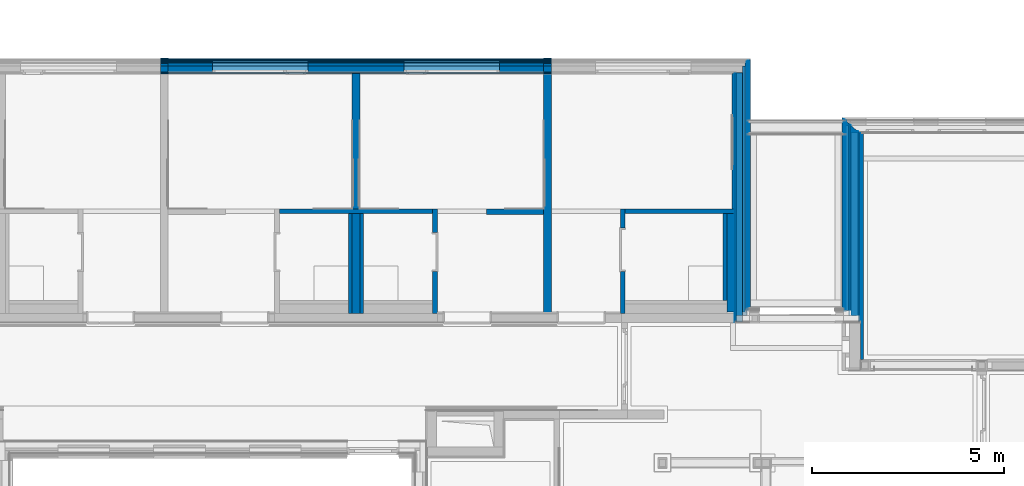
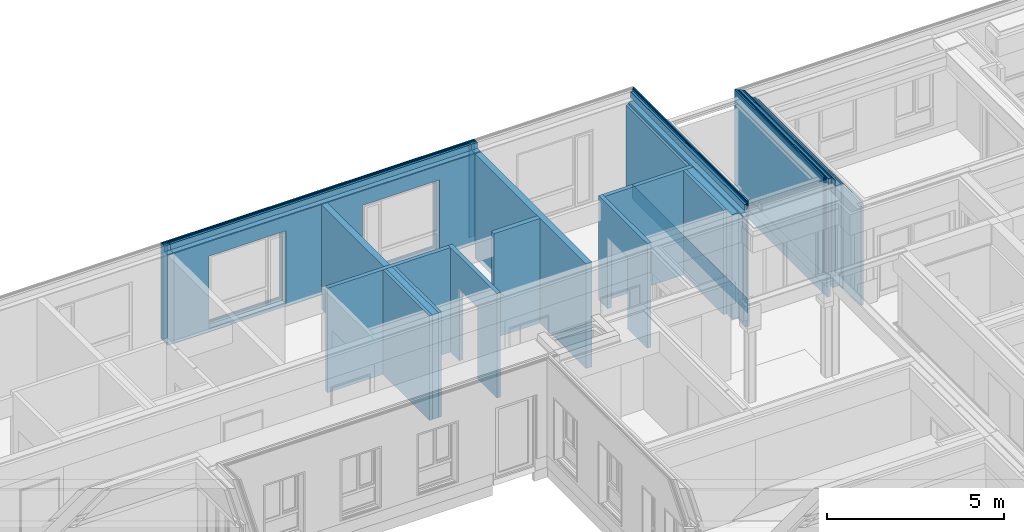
# One storey, part 39 of 207: 59 walls, 16 openings.
"""IFC4 building model written with IfcOpenShell, lengths in metres."""

from ifc_helpers import new_model, entity, si_unit, converted_unit, derived_unit, frame, frame_2d, origin, origin_with_axes, place, context, subcontext, project, spatial, polyline, rectangle, outline, extrude, clip, bounded_halfspace, material, element, save


model = new_model("IFC4")

# Units and contexts
model_context = context("Model", 3, precision=1e-05, world=origin())
body_context = subcontext(model_context, "Body", "Model", "MODEL_VIEW")
ifc_project = project(units=[si_unit("LENGTHUNIT", "METRE"), si_unit("AREAUNIT", "SQUARE_METRE"), si_unit("VOLUMEUNIT", "CUBIC_METRE"), si_unit("MASSUNIT", "GRAM", prefix="KILO"), converted_unit("PLANEANGLEUNIT", "DEGREE", entity("IfcPlaneAngleMeasure", 0.0174532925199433), si_unit("PLANEANGLEUNIT", "RADIAN"), dimensions=[0, 0, 0, 0, 0, 0, 0]), derived_unit("THERMALTRANSMITTANCEUNIT", [(si_unit("POWERUNIT", "WATT"), 1), (si_unit("THERMODYNAMICTEMPERATUREUNIT", "KELVIN"), -1), (si_unit("LENGTHUNIT", "METRE"), -2)]), derived_unit("VOLUMETRICFLOWRATEUNIT", [(si_unit("LENGTHUNIT", "METRE"), 3), (converted_unit("TIMEUNIT", "hour", entity("IfcTimeMeasure", 3600.0), si_unit("TIMEUNIT", "SECOND"), dimensions=[0, 0, 1, 0, 0, 0, 0]), -1), (si_unit("LENGTHUNIT", "METRE"), -1)])], contexts=[model_context])

# Site, building, storey
site_placement = place(None, origin())
site = spatial("IfcSite", under=ifc_project, at=site_placement, Name="Psychiatrie Neubau Wunstorf", CompositionType="ELEMENT")
building_placement = place(site_placement, origin())
building = spatial("IfcBuilding", under=site, at=building_placement, Name="Neubau H2 Stationsgebäude", CompositionType="ELEMENT")
storey_placement = place(building_placement, frame((0.0, 0.0, -0.2)))
storey = spatial("IfcBuildingStorey", under=building, at=storey_placement, Name="H2 Ebene 0", CompositionType="ELEMENT", Elevation=-0.2)

# Walls
ifc_material_1 = material(Name="WA-LB")
wall_1_placement = place(storey_placement, frame((19.9, 30.614, 0.5)))
element("IfcWall", 1, at=wall_1_placement, inside=storey, material=ifc_material_1, context=body_context, shape_type="SweptSolid", body=[
    extrude(rectangle(XDim=0.2, YDim=0.036, at=frame_2d((0.1, 0.018), x_axis=(1.0, 0.0))), origin_with_axes(), (0.0, 0.0, 1.0), 3.1),
])
ifc_material_2 = material(Name="WA-HD")
wall_2_placement = place(storey_placement, frame((19.9, 30.65, 0.5)))
element("IfcWall", 2, at=wall_2_placement, inside=storey, material=ifc_material_2, context=body_context, shape_type="SweptSolid", body=[
    extrude(rectangle(XDim=0.2, YDim=0.16, at=frame_2d((0.1, 0.08), x_axis=(1.0, 0.0))), origin_with_axes(), (0.0, 0.0, 1.0), 3.1),
])
ifc_material_3 = material(Name="WA-DL")
wall_3_placement = place(storey_placement, frame((19.9, 30.81, 0.5)))
element("IfcWall", 3, at=wall_3_placement, inside=storey, material=ifc_material_3, context=body_context, shape_type="SweptSolid", body=[
    extrude(rectangle(XDim=0.2, YDim=0.08, at=frame_2d((0.1, 0.04), x_axis=(1.0, 0.0))), origin_with_axes(), (0.0, 0.0, 1.0), 3.3),
])
ifc_material_4 = material(Name="WA-TP")
wall_4_placement = place(storey_placement, frame((19.9, 30.89, 0.5)))
element("IfcWall", 4, at=wall_4_placement, inside=storey, material=ifc_material_4, context=body_context, shape_type="SweptSolid", body=[
    extrude(rectangle(XDim=0.2, YDim=0.036, at=frame_2d((0.1, 0.018), x_axis=(1.0, 0.0))), origin_with_axes(), (0.0, 0.0, 1.0), 3.3),
])
ifc_material_5 = material(Name="WA-KL")
wall_5_placement = place(storey_placement, frame((19.9, 30.926, 0.5)))
element("IfcWall", 5, at=wall_5_placement, inside=storey, material=ifc_material_5, context=body_context, shape_type="SweptSolid", body=[
    extrude(rectangle(XDim=0.2, YDim=0.024, at=frame_2d((0.1, 0.012), x_axis=(1.0, 0.0))), origin_with_axes(), (0.0, 0.0, 1.0), 3.3),
])
ifc_material_6 = material(Name="WA-TL")
wall_6_placement = place(storey_placement, frame((19.9, 30.95, 0.5)))
element("IfcWall", 6, at=wall_6_placement, inside=storey, material=ifc_material_6, context=body_context, shape_type="SweptSolid", body=[
    extrude(rectangle(XDim=0.2, YDim=0.024, at=frame_2d((0.1, 0.012), x_axis=(1.0, 0.0))), origin_with_axes(), (0.0, 0.0, 1.0), 3.3),
])
ifc_material_7 = material(Name="WA-HS")
wall_7_placement = place(storey_placement, frame((19.9, 30.974, 0.5)))
element("IfcWall", 7, at=wall_7_placement, inside=storey, material=ifc_material_7, context=body_context, shape_type="SweptSolid", body=[
    extrude(rectangle(XDim=0.2, YDim=0.042, at=frame_2d((0.1, 0.021), x_axis=(1.0, 0.0))), origin_with_axes(), (0.0, 0.0, 1.0), 3.3),
])

# Wall, openings
ifc_material_8 = material(Name="WA-LB")
wall_8_placement = place(storey_placement, frame((20.1, 30.614, 0.5), z_axis=(0.0, 0.0, 1.0), x_axis=(1.0, -7.42444654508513e-16, 0.0)))
wall_8 = element("IfcWall", 8, at=wall_8_placement, inside=storey, material=ifc_material_8, context=body_context, shape_type="SweptSolid", body=[
    extrude(rectangle(XDim=9.8, YDim=0.036, at=frame_2d((4.9, 0.018), x_axis=(1.0, 0.0))), origin_with_axes(), (0.0, 0.0, 1.0), 3.1),
])
opening_1_placement = place(wall_8_placement, frame((1.15, 0.0, 0.1), z_axis=(0.0, 1.0, 0.0), x_axis=(0.0, 0.0, 1.0)))
element("IfcOpeningElement", 9, at=opening_1_placement, cuts=wall_8, Name="Fensteröffnung", ObjectType="Opening", context=body_context, shape_type="SweptSolid", body=[
    extrude(outline(polyline([(2.5, 2.5), (2.5, 0.0), (0.0, 0.0), (0.0, 2.5), (2.5, 2.5)])), origin_with_axes(), (0.0, 0.0, 1.0), 0.036),
])
opening_2_placement = place(wall_8_placement, frame((6.15, 0.0, 0.1), z_axis=(0.0, 1.0, 0.0), x_axis=(0.0, 0.0, 1.0)))
element("IfcOpeningElement", 10, at=opening_2_placement, cuts=wall_8, Name="Fensteröffnung", ObjectType="Opening", context=body_context, shape_type="SweptSolid", body=[
    extrude(outline(polyline([(2.5, 2.5), (2.5, 0.0), (0.0, 0.0), (0.0, 2.5), (2.5, 2.5)])), origin_with_axes(), (0.0, 0.0, 1.0), 0.036),
])

ifc_material_9 = material(Name="WA-HD")
wall_9_placement = place(storey_placement, frame((20.1, 30.65, 0.5), z_axis=(0.0, 0.0, 1.0), x_axis=(1.0, -7.42444654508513e-16, 0.0)))
wall_9 = element("IfcWall", 11, at=wall_9_placement, inside=storey, material=ifc_material_9, context=body_context, shape_type="SweptSolid", body=[
    extrude(rectangle(XDim=9.8, YDim=0.16, at=frame_2d((4.9, 0.08), x_axis=(1.0, 0.0))), origin_with_axes(), (0.0, 0.0, 1.0), 3.1),
])
opening_3_placement = place(wall_9_placement, frame((1.15, 0.0, 0.1), z_axis=(-1.4210854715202e-15, 1.0, 0.0), x_axis=(0.0, 0.0, 1.0)))
element("IfcOpeningElement", 12, at=opening_3_placement, cuts=wall_9, Name="Fensteröffnung", ObjectType="Opening", context=body_context, shape_type="SweptSolid", body=[
    extrude(outline(polyline([(2.5, 2.5), (2.5, 0.0), (0.0, 0.0), (0.0, 2.5), (2.5, 2.5)])), origin_with_axes(), (0.0, 0.0, 1.0), 0.16),
])
opening_4_placement = place(wall_9_placement, frame((6.15, 0.0, 0.1), z_axis=(0.0, 1.0, 0.0), x_axis=(0.0, 0.0, 1.0)))
element("IfcOpeningElement", 13, at=opening_4_placement, cuts=wall_9, Name="Fensteröffnung", ObjectType="Opening", context=body_context, shape_type="SweptSolid", body=[
    extrude(outline(polyline([(2.5, 2.5), (2.5, 0.0), (0.0, 0.0), (0.0, 2.5), (2.5, 2.5)])), origin_with_axes(), (0.0, 0.0, 1.0), 0.16),
])

ifc_material_10 = material(Name="WA-DL")
wall_10_placement = place(storey_placement, frame((20.1, 30.81, 0.5), z_axis=(0.0, 0.0, 1.0), x_axis=(1.0, -7.42444654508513e-16, 0.0)))
wall_10 = element("IfcWall", 14, at=wall_10_placement, inside=storey, material=ifc_material_10, context=body_context, shape_type="SweptSolid", body=[
    extrude(rectangle(XDim=9.8, YDim=0.08, at=frame_2d((4.9, 0.04), x_axis=(1.0, 0.0))), origin_with_axes(), (0.0, 0.0, 1.0), 3.3),
])
opening_5_placement = place(wall_10_placement, frame((6.15, 0.0, 0.1), z_axis=(0.0, 1.0, 0.0), x_axis=(0.0, 0.0, 1.0)))
element("IfcOpeningElement", 15, at=opening_5_placement, cuts=wall_10, Name="Fensteröffnung", ObjectType="Opening", context=body_context, shape_type="SweptSolid", body=[
    extrude(outline(polyline([(2.5, 2.5), (2.5, 0.0), (0.0, 0.0), (0.0, 2.5), (2.5, 2.5)])), origin_with_axes(), (0.0, 0.0, 1.0), 0.08),
])
opening_6_placement = place(wall_10_placement, frame((1.15, 0.0, 0.1), z_axis=(0.0, 1.0, 0.0), x_axis=(0.0, 0.0, 1.0)))
element("IfcOpeningElement", 16, at=opening_6_placement, cuts=wall_10, Name="Fensteröffnung", ObjectType="Opening", context=body_context, shape_type="SweptSolid", body=[
    extrude(outline(polyline([(2.5, 2.5), (2.5, 0.0), (0.0, 0.0), (0.0, 2.5), (2.5, 2.5)])), origin_with_axes(), (0.0, 0.0, 1.0), 0.08),
])

ifc_material_11 = material(Name="WA-TP")
wall_11_placement = place(storey_placement, frame((20.1, 30.89, 0.5), z_axis=(0.0, 0.0, 1.0), x_axis=(1.0, -7.42444654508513e-16, 0.0)))
wall_11 = element("IfcWall", 17, at=wall_11_placement, inside=storey, material=ifc_material_11, context=body_context, shape_type="SweptSolid", body=[
    extrude(rectangle(XDim=9.8, YDim=0.036, at=frame_2d((4.9, 0.018), x_axis=(1.0, 0.0))), origin_with_axes(), (0.0, 0.0, 1.0), 3.3),
])
opening_7_placement = place(wall_11_placement, frame((1.15, 0.0, 0.1), z_axis=(0.0, 1.0, 0.0), x_axis=(0.0, 0.0, 1.0)))
element("IfcOpeningElement", 18, at=opening_7_placement, cuts=wall_11, Name="Fensteröffnung", ObjectType="Opening", context=body_context, shape_type="SweptSolid", body=[
    extrude(outline(polyline([(2.5, 2.5), (2.5, 0.0), (0.0, 0.0), (0.0, 2.5), (2.5, 2.5)])), origin_with_axes(), (0.0, 0.0, 1.0), 0.036),
])
opening_8_placement = place(wall_11_placement, frame((6.15, 0.0, 0.1), z_axis=(0.0, 1.0, 0.0), x_axis=(0.0, 0.0, 1.0)))
element("IfcOpeningElement", 19, at=opening_8_placement, cuts=wall_11, Name="Fensteröffnung", ObjectType="Opening", context=body_context, shape_type="SweptSolid", body=[
    extrude(outline(polyline([(2.5, 2.5), (2.5, 0.0), (0.0, 0.0), (0.0, 2.5), (2.5, 2.5)])), origin_with_axes(), (0.0, 0.0, 1.0), 0.036),
])

ifc_material_12 = material(Name="WA-KL")
wall_12_placement = place(storey_placement, frame((20.1, 30.926, 0.5), z_axis=(0.0, 0.0, 1.0), x_axis=(1.0, -7.42444654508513e-16, 0.0)))
wall_12 = element("IfcWall", 20, at=wall_12_placement, inside=storey, material=ifc_material_12, context=body_context, shape_type="SweptSolid", body=[
    extrude(rectangle(XDim=9.8, YDim=0.024, at=frame_2d((4.9, 0.012), x_axis=(1.0, 0.0))), origin_with_axes(), (0.0, 0.0, 1.0), 3.3),
])
opening_9_placement = place(wall_12_placement, frame((6.15, 0.0, 0.1), z_axis=(0.0, 1.0, 0.0), x_axis=(0.0, 0.0, 1.0)))
element("IfcOpeningElement", 21, at=opening_9_placement, cuts=wall_12, Name="Fensteröffnung", ObjectType="Opening", context=body_context, shape_type="SweptSolid", body=[
    extrude(outline(polyline([(2.5, 2.5), (2.5, 0.0), (0.0, 0.0), (0.0, 2.5), (2.5, 2.5)])), origin_with_axes(), (0.0, 0.0, 1.0), 0.024),
])
opening_10_placement = place(wall_12_placement, frame((1.15, 0.0, 0.1), z_axis=(0.0, 1.0, 0.0), x_axis=(0.0, 0.0, 1.0)))
element("IfcOpeningElement", 22, at=opening_10_placement, cuts=wall_12, Name="Fensteröffnung", ObjectType="Opening", context=body_context, shape_type="SweptSolid", body=[
    extrude(outline(polyline([(2.5, 2.5), (2.5, 0.0), (0.0, 0.0), (0.0, 2.5), (2.5, 2.5)])), origin_with_axes(), (0.0, 0.0, 1.0), 0.024),
])

ifc_material_13 = material(Name="WA-TL")
wall_13_placement = place(storey_placement, frame((20.1, 30.95, 0.5), z_axis=(0.0, 0.0, 1.0), x_axis=(1.0, -7.42444654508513e-16, 0.0)))
wall_13 = element("IfcWall", 23, at=wall_13_placement, inside=storey, material=ifc_material_13, context=body_context, shape_type="SweptSolid", body=[
    extrude(rectangle(XDim=9.8, YDim=0.024, at=frame_2d((4.9, 0.012), x_axis=(1.0, 0.0))), origin_with_axes(), (0.0, 0.0, 1.0), 3.3),
])
opening_11_placement = place(wall_13_placement, frame((6.15, 0.0, 0.1), z_axis=(0.0, 1.0, 0.0), x_axis=(0.0, 0.0, 1.0)))
element("IfcOpeningElement", 24, at=opening_11_placement, cuts=wall_13, Name="Fensteröffnung", ObjectType="Opening", context=body_context, shape_type="SweptSolid", body=[
    extrude(outline(polyline([(2.5, 2.5), (2.5, 0.0), (0.0, 0.0), (0.0, 2.5), (2.5, 2.5)])), origin_with_axes(), (0.0, 0.0, 1.0), 0.024),
])
opening_12_placement = place(wall_13_placement, frame((1.15, 0.0, 0.1), z_axis=(0.0, 1.0, 0.0), x_axis=(0.0, 0.0, 1.0)))
element("IfcOpeningElement", 25, at=opening_12_placement, cuts=wall_13, Name="Fensteröffnung", ObjectType="Opening", context=body_context, shape_type="SweptSolid", body=[
    extrude(outline(polyline([(2.5, 2.5), (2.5, 0.0), (0.0, 0.0), (0.0, 2.5), (2.5, 2.5)])), origin_with_axes(), (0.0, 0.0, 1.0), 0.024),
])

ifc_material_14 = material(Name="WA-HS")
wall_14_placement = place(storey_placement, frame((20.1, 30.974, 0.5), z_axis=(0.0, 0.0, 1.0), x_axis=(1.0, -7.42444654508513e-16, 0.0)))
wall_14 = element("IfcWall", 26, at=wall_14_placement, inside=storey, material=ifc_material_14, context=body_context, shape_type="SweptSolid", body=[
    extrude(rectangle(XDim=9.8, YDim=0.042, at=frame_2d((4.9, 0.021), x_axis=(1.0, 0.0))), origin_with_axes(), (0.0, 0.0, 1.0), 3.3),
])
opening_13_placement = place(wall_14_placement, frame((1.15, 0.0, 0.1), z_axis=(0.0, 1.0, 0.0), x_axis=(0.0, 0.0, 1.0)))
element("IfcOpeningElement", 27, at=opening_13_placement, cuts=wall_14, Name="Fensteröffnung", ObjectType="Opening", context=body_context, shape_type="SweptSolid", body=[
    extrude(outline(polyline([(2.5, 2.5), (2.5, 0.0), (0.0, 0.0), (0.0, 2.5), (2.5, 2.5)])), origin_with_axes(), (0.0, 0.0, 1.0), 0.042),
])
opening_14_placement = place(wall_14_placement, frame((6.15, 0.0, 0.1), z_axis=(0.0, 1.0, 0.0), x_axis=(0.0, 0.0, 1.0)))
element("IfcOpeningElement", 28, at=opening_14_placement, cuts=wall_14, Name="Fensteröffnung", ObjectType="Opening", context=body_context, shape_type="SweptSolid", body=[
    extrude(outline(polyline([(2.5, 2.5), (2.5, 0.0), (0.0, 0.0), (0.0, 2.5), (2.5, 2.5)])), origin_with_axes(), (0.0, 0.0, 1.0), 0.042),
])

# Walls
ifc_material_15 = material(Name="WA-LB")
wall_15_placement = place(storey_placement, frame((29.9, 30.614, 0.5)))
element("IfcWall", 29, at=wall_15_placement, inside=storey, material=ifc_material_15, context=body_context, shape_type="SweptSolid", body=[
    extrude(rectangle(XDim=0.2, YDim=0.036, at=frame_2d((0.1, 0.018), x_axis=(1.0, 0.0))), origin_with_axes(), (0.0, 0.0, 1.0), 3.1),
])
ifc_material_16 = material(Name="WA-HD")
wall_16_placement = place(storey_placement, frame((29.9, 30.65, 0.5)))
element("IfcWall", 30, at=wall_16_placement, inside=storey, material=ifc_material_16, context=body_context, shape_type="SweptSolid", body=[
    extrude(rectangle(XDim=0.2, YDim=0.16, at=frame_2d((0.1, 0.08), x_axis=(1.0, 0.0))), origin_with_axes(), (0.0, 0.0, 1.0), 3.1),
])
ifc_material_17 = material(Name="WA-DL")
wall_17_placement = place(storey_placement, frame((29.9, 30.81, 0.5)))
element("IfcWall", 31, at=wall_17_placement, inside=storey, material=ifc_material_17, context=body_context, shape_type="SweptSolid", body=[
    extrude(rectangle(XDim=0.2, YDim=0.08, at=frame_2d((0.1, 0.04), x_axis=(1.0, 0.0))), origin_with_axes(), (0.0, 0.0, 1.0), 3.3),
])
ifc_material_18 = material(Name="WA-TP")
wall_18_placement = place(storey_placement, frame((29.9, 30.89, 0.5)))
element("IfcWall", 32, at=wall_18_placement, inside=storey, material=ifc_material_18, context=body_context, shape_type="SweptSolid", body=[
    extrude(rectangle(XDim=0.2, YDim=0.036, at=frame_2d((0.1, 0.018), x_axis=(1.0, 0.0))), origin_with_axes(), (0.0, 0.0, 1.0), 3.3),
])
ifc_material_19 = material(Name="WA-KL")
wall_19_placement = place(storey_placement, frame((29.9, 30.926, 0.5)))
element("IfcWall", 33, at=wall_19_placement, inside=storey, material=ifc_material_19, context=body_context, shape_type="SweptSolid", body=[
    extrude(rectangle(XDim=0.2, YDim=0.024, at=frame_2d((0.1, 0.012), x_axis=(1.0, 0.0))), origin_with_axes(), (0.0, 0.0, 1.0), 3.3),
])
ifc_material_20 = material(Name="WA-TL")
wall_20_placement = place(storey_placement, frame((29.9, 30.95, 0.5)))
element("IfcWall", 34, at=wall_20_placement, inside=storey, material=ifc_material_20, context=body_context, shape_type="SweptSolid", body=[
    extrude(rectangle(XDim=0.2, YDim=0.024, at=frame_2d((0.1, 0.012), x_axis=(1.0, 0.0))), origin_with_axes(), (0.0, 0.0, 1.0), 3.3),
])
ifc_material_21 = material(Name="WA-HS")
wall_21_placement = place(storey_placement, frame((29.9, 30.974, 0.5)))
element("IfcWall", 35, at=wall_21_placement, inside=storey, material=ifc_material_21, context=body_context, shape_type="SweptSolid", body=[
    extrude(rectangle(XDim=0.2, YDim=0.042, at=frame_2d((0.1, 0.021), x_axis=(1.0, 0.0))), origin_with_axes(), (0.0, 0.0, 1.0), 3.3),
])
ifc_material_22 = material(Name="WA-LB")
wall_22_placement = place(storey_placement, frame((34.889, 30.614, 0.5), z_axis=(0.0, 0.0, 1.0), x_axis=(0.0, -1.0, 0.0)))
element("IfcWall", 36, at=wall_22_placement, inside=storey, material=ifc_material_22, context=body_context, shape_type="SweptSolid", body=[
    extrude(rectangle(XDim=6.46399633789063, YDim=0.036, at=frame_2d((3.23199816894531, 0.018), x_axis=(1.0, 0.0))), origin_with_axes(), (0.0, 0.0, 1.0), 3.1),
])
ifc_material_23 = material(Name="WA-HD")
wall_23_placement = place(storey_placement, frame((34.925, 30.65, 0.5), z_axis=(0.0, 0.0, 1.0), x_axis=(0.0, -1.0, 0.0)))
element("IfcWall", 37, at=wall_23_placement, inside=storey, material=ifc_material_23, context=body_context, shape_type="SweptSolid", body=[
    extrude(rectangle(XDim=6.33999633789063, YDim=0.16, at=frame_2d((3.16999816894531, 0.08), x_axis=(1.0, 0.0))), origin_with_axes(), (0.0, 0.0, 1.0), 3.1),
])
ifc_material_24 = material(Name="WA-DL")
wall_24_placement = place(storey_placement, frame((35.085, 30.81, 0.5), z_axis=(0.0, 0.0, 1.0), x_axis=(0.0, -1.0, 0.0)))
element("IfcWall", 38, at=wall_24_placement, inside=storey, material=ifc_material_24, context=body_context, shape_type="SweptSolid", body=[
    extrude(rectangle(XDim=6.41999633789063, YDim=0.08, at=frame_2d((3.20999816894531, 0.04), x_axis=(1.0, 0.0))), origin_with_axes(), (0.0, 0.0, 1.0), 3.3),
])
ifc_material_25 = material(Name="WA-TP")
wall_25_placement = place(storey_placement, frame((35.165, 30.89, 0.5), z_axis=(0.0, 0.0, 1.0), x_axis=(0.0, -1.0, 0.0)))
element("IfcWall", 39, at=wall_25_placement, inside=storey, material=ifc_material_25, context=body_context, shape_type="SweptSolid", body=[
    extrude(rectangle(XDim=6.46399633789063, YDim=0.036, at=frame_2d((3.23199816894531, 0.018), x_axis=(1.0, 0.0))), origin_with_axes(), (0.0, 0.0, 1.0), 3.3),
])
ifc_material_26 = material(Name="WA-KL")
wall_26_placement = place(storey_placement, frame((35.201, 30.926, 0.5), z_axis=(0.0, 0.0, 1.0), x_axis=(0.0, -1.0, 0.0)))
element("IfcWall", 40, at=wall_26_placement, inside=storey, material=ifc_material_26, context=body_context, shape_type="SweptSolid", body=[
    extrude(rectangle(XDim=6.47599633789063, YDim=0.024, at=frame_2d((3.23799816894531, 0.012), x_axis=(1.0, 0.0))), origin_with_axes(), (0.0, 0.0, 1.0), 3.3),
])
ifc_material_27 = material(Name="WA-TL")
wall_27_placement = place(storey_placement, frame((35.225, 30.95, 0.5), z_axis=(0.0, 0.0, 1.0), x_axis=(0.0, -1.0, 0.0)))
element("IfcWall", 41, at=wall_27_placement, inside=storey, material=ifc_material_27, context=body_context, shape_type="SweptSolid", body=[
    extrude(rectangle(XDim=6.47599633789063, YDim=0.024, at=frame_2d((3.23799816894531, 0.012), x_axis=(1.0, 0.0))), origin_with_axes(), (0.0, 0.0, 1.0), 3.3),
])
ifc_material_28 = material(Name="WA-HS")
wall_28_placement = place(storey_placement, frame((35.249, 30.974, 0.5), z_axis=(0.0, 0.0, 1.0), x_axis=(0.0, -1.0, 0.0)))
element("IfcWall", 42, at=wall_28_placement, inside=storey, material=ifc_material_28, context=body_context, shape_type="SweptSolid", body=[
    extrude(rectangle(XDim=6.45799633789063, YDim=0.042, at=frame_2d((3.22899816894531, 0.021), x_axis=(1.0, 0.0))), origin_with_axes(), (0.0, 0.0, 1.0), 3.3),
])
ifc_material_29 = material(Name="WA-LB")
wall_29_placement = place(storey_placement, frame((38.1475, 24.1500036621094, 0.5), z_axis=(0.0, 0.0, 1.0), x_axis=(0.0, 1.0, 0.0)))
element("IfcWall", 43, at=wall_29_placement, inside=storey, material=ifc_material_29, context=body_context, shape_type="SweptSolid", body=[
    extrude(outline(polyline([(0.0, -0.036), (4.91399602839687, -0.036), (4.94532070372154, 0.0), (0.0, 0.0), (0.0, -0.036)])), frame((0.0, 0.036, 0.0), z_axis=(0.0, 0.0, 1.0), x_axis=(1.0, 0.0, 0.0)), (0.0, 0.0, 1.0), 3.1),
])
ifc_material_30 = material(Name="WA-LB")
wall_30_placement = place(storey_placement, frame((38.1115, 24.1500036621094, 0.5), z_axis=(0.0, 0.0, 1.0), x_axis=(0.0, 1.0, 0.0)))
element("IfcWall", 44, at=wall_30_placement, inside=storey, material=ifc_material_30, context=body_context, shape_type="SweptSolid", body=[
    extrude(outline(polyline([(0.0, -0.019), (4.94532070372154, -0.019), (4.96185317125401, 0.0), (0.0, 0.0), (0.0, -0.019)])), frame((0.0, 0.019, 0.0), z_axis=(0.0, 0.0, 1.0), x_axis=(1.0, 0.0, 0.0)), (0.0, 0.0, 1.0), 3.1),
])
ifc_material_31 = material(Name="WA-HD")
wall_31_placement = place(storey_placement, frame((38.0925, 24.1500036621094, 0.5), z_axis=(0.0, 0.0, 1.0), x_axis=(0.0, 1.0, 0.0)))
element("IfcWall", 45, at=wall_31_placement, inside=storey, material=ifc_material_31, context=body_context, shape_type="SweptSolid", body=[
    extrude(outline(polyline([(0.0, -0.18), (4.96185317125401, -0.18), (5.11847654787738, 0.0), (0.0, 0.0), (0.0, -0.18)])), frame((0.0, 0.18, 0.0), z_axis=(0.0, 0.0, 1.0), x_axis=(1.0, 0.0, 0.0)), (0.0, 0.0, 1.0), 3.1),
])
ifc_material_32 = material(Name="WA-LB")
wall_32_placement = place(storey_placement, frame((37.9125, 24.1500036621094, 0.5), z_axis=(0.0, 0.0, 1.0), x_axis=(0.0, 1.0, 0.0)))
element("IfcWall", 46, at=wall_32_placement, inside=storey, material=ifc_material_32, context=body_context, shape_type="SweptSolid", body=[
    extrude(outline(polyline([(0.0, -0.019), (5.11847654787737, -0.019), (5.13500901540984, 0.0), (0.0, 0.0), (0.0, -0.019)])), frame((0.0, 0.019, 0.0), z_axis=(0.0, 0.0, 1.0), x_axis=(1.0, 0.0, 0.0)), (0.0, 0.0, 1.0), 3.3),
])
ifc_material_33 = material(Name="WA-TP")
wall_33_placement = place(storey_placement, frame((37.8935, 24.3100036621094, 0.5), z_axis=(0.0, 0.0, 1.0), x_axis=(0.0, 1.0, 0.0)))
element("IfcWall", 47, at=wall_33_placement, inside=storey, material=ifc_material_33, context=body_context, shape_type="SweptSolid", body=[
    extrude(outline(polyline([(0.0, -0.036), (4.97500901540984, -0.036), (5.00633369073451, 0.0), (0.0, 0.0), (0.0, -0.036)])), frame((0.0, 0.036, 0.0), z_axis=(0.0, 0.0, 1.0), x_axis=(1.0, 0.0, 0.0)), (0.0, 0.0, 1.0), 3.3),
])
ifc_material_34 = material(Name="WA-DL")
wall_34_placement = place(storey_placement, frame((37.8575, 24.3100036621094, 0.5), z_axis=(0.0, 0.0, 1.0), x_axis=(0.0, 1.0, 0.0)))
element("IfcWall", 48, at=wall_34_placement, inside=storey, material=ifc_material_34, context=body_context, shape_type="SweptSolid", body=[
    extrude(outline(polyline([(0.0, -0.08), (5.00633369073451, -0.08), (5.0759440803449, 0.0), (0.0, 0.0), (0.0, -0.08)])), frame((0.0, 0.08, 0.0), z_axis=(0.0, 0.0, 1.0), x_axis=(1.0, 0.0, 0.0)), (0.0, 0.0, 1.0), 3.3),
])
ifc_material_35 = material(Name="WA-KL")
wall_35_placement = place(storey_placement, frame((37.7775, 24.4260036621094, 0.5), z_axis=(0.0, 0.0, 1.0), x_axis=(0.0, 1.0, 0.0)))
element("IfcWall", 49, at=wall_35_placement, inside=storey, material=ifc_material_35, context=body_context, shape_type="SweptSolid", body=[
    extrude(outline(polyline([(0.0, -0.025), (4.9599440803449, -0.025), (4.98169732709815, 0.0), (0.0, 0.0), (0.0, -0.025)])), frame((0.0, 0.025, 0.0), z_axis=(0.0, 0.0, 1.0), x_axis=(1.0, 0.0, 0.0)), (0.0, 0.0, 1.0), 3.3),
])
ifc_material_36 = material(Name="WA-TL")
wall_36_placement = place(storey_placement, frame((37.7525, 24.4260036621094, 0.5), z_axis=(0.0, 0.0, 1.0), x_axis=(0.0, 1.0, 0.0)))
element("IfcWall", 50, at=wall_36_placement, inside=storey, material=ifc_material_36, context=body_context, shape_type="SweptSolid", body=[
    extrude(outline(polyline([(0.0, -0.025), (4.98169732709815, -0.025), (5.0034505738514, 0.0), (0.0, 0.0), (0.0, -0.025)])), frame((0.0, 0.025, 0.0), z_axis=(0.0, 0.0, 1.0), x_axis=(1.0, 0.0, 0.0)), (0.0, 0.0, 1.0), 3.3),
])
ifc_material_37 = material(Name="WA-HS")
wall_37_placement = place(storey_placement, frame((37.7275, 24.4500036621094, 0.5), z_axis=(0.0, 0.0, 1.0), x_axis=(0.0, 1.0, 0.0)))
element("IfcWall", 51, at=wall_37_placement, inside=storey, material=ifc_material_37, context=body_context, shape_type="Clipping", body=[
    clip(extrude(outline(polyline([(0.0, -0.042), (4.9794505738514, -0.042), (5.01599602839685, 0.0), (0.0, 0.0), (0.0, -0.042)])), frame((0.0, 0.042, 0.0), z_axis=(0.0, 0.0, 1.0), x_axis=(1.0, 0.0, 0.0)), (0.0, 0.0, 1.0), 3.3), bounded_halfspace(frame((0.012, 0.021, 3.1), z_axis=(0.0, 0.0, 1.0), x_axis=(0.0, -1.0, 0.0)), True, origin_with_axes(), polyline([(0.0, 0.042), (0.0, 0.0), (0.024, 0.0), (0.024, 0.042), (0.0, 0.042)]))),
])
ifc_material_38 = material(Name="WA-LB")
wall_38_placement = place(storey_placement, frame((34.889, 30.614, 0.0), z_axis=(0.0, 0.0, 1.0), x_axis=(0.0, -1.0, 0.0)))
element("IfcWall", 52, at=wall_38_placement, inside=storey, material=ifc_material_38, context=body_context, shape_type="SweptSolid", body=[
    extrude(rectangle(XDim=6.49999633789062, YDim=0.021, at=frame_2d((3.24999816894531, 0.0105), x_axis=(1.0, 0.0))), origin_with_axes(), (0.0, 0.0, 1.0), 0.5),
])
ifc_material_39 = material(Name="WA-STB")
wall_39_placement = place(storey_placement, frame((34.91, 30.635, 0.0), z_axis=(0.0, 0.0, 1.0), x_axis=(0.0, -1.0, 0.0)))
element("IfcWall", 53, at=wall_39_placement, inside=storey, material=ifc_material_39, context=body_context, shape_type="SweptSolid", body=[
    extrude(rectangle(XDim=6.49999633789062, YDim=0.175, at=frame_2d((3.24999816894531, 0.0875), x_axis=(1.0, 0.0))), origin_with_axes(), (0.0, 0.0, 1.0), 0.5),
])
ifc_material_40 = material(Name="WA-DE")
wall_40_placement = place(storey_placement, frame((35.085, 30.81, -0.36), z_axis=(0.0, 0.0, 1.0), x_axis=(0.0, -1.0, 0.0)))
element("IfcWall", 54, at=wall_40_placement, inside=storey, material=ifc_material_40, context=body_context, shape_type="SweptSolid", body=[
    extrude(rectangle(XDim=6.49999633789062, YDim=0.12, at=frame_2d((3.24999816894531, 0.06), x_axis=(1.0, 0.0))), origin_with_axes(), (0.0, 0.0, 1.0), 0.86),
])
ifc_material_41 = material(Name="WA-LB")
wall_41_placement = place(storey_placement, frame((35.205, 30.93, 0.0), z_axis=(0.0, 0.0, 1.0), x_axis=(0.0, -1.0, 0.0)))
element("IfcWall", 55, at=wall_41_placement, inside=storey, material=ifc_material_41, context=body_context, shape_type="SweptSolid", body=[
    extrude(rectangle(XDim=6.49999633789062, YDim=0.015, at=frame_2d((3.24999816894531, 0.0075), x_axis=(1.0, 0.0))), origin_with_axes(), (0.0, 0.0, 1.0), 0.5),
])
ifc_material_42 = material(Name="WA-LB")
wall_42_placement = place(storey_placement, frame((38.156, 24.1350036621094, 0.0), z_axis=(0.0, 0.0, 1.0), x_axis=(0.0, 1.0, 0.0)))
element("IfcWall", 56, at=wall_42_placement, inside=storey, material=ifc_material_42, context=body_context, shape_type="SweptSolid", body=[
    extrude(rectangle(XDim=4.92899602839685, YDim=0.021, at=frame_2d((2.46449801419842, 0.0105), x_axis=(1.0, 0.0))), origin_with_axes(), (0.0, 0.0, 1.0), 0.5),
])
ifc_material_43 = material(Name="WA-STB")
wall_43_placement = place(storey_placement, frame((38.135, 24.3100036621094, 0.0), z_axis=(0.0, 0.0, 1.0), x_axis=(0.0, 1.0, 0.0)))
element("IfcWall", 57, at=wall_43_placement, inside=storey, material=ifc_material_43, context=body_context, shape_type="SweptSolid", body=[
    extrude(rectangle(XDim=4.77499602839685, YDim=0.22, at=frame_2d((2.38749801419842, 0.11), x_axis=(1.0, 0.0))), origin_with_axes(), (0.0, 0.0, 1.0), 0.5),
])
ifc_material_44 = material(Name="WA-DE")
wall_44_placement = place(storey_placement, frame((37.915, 24.4300036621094, -0.36), z_axis=(0.0, 0.0, 1.0), x_axis=(0.0, 1.0, 0.0)))
element("IfcWall", 58, at=wall_44_placement, inside=storey, material=ifc_material_44, context=body_context, shape_type="SweptSolid", body=[
    extrude(rectangle(XDim=4.82999602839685, YDim=0.12, at=frame_2d((2.41499801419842, 0.06), x_axis=(1.0, 0.0))), origin_with_axes(), (0.0, 0.0, 1.0), 0.86),
])
ifc_material_45 = material(Name="WA-LB")
wall_45_placement = place(storey_placement, frame((37.795, 24.4450036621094, 0.0), z_axis=(0.0, 0.0, 1.0), x_axis=(0.0, 1.0, 0.0)))
element("IfcWall", 59, at=wall_45_placement, inside=storey, material=ifc_material_45, context=body_context, shape_type="SweptSolid", body=[
    extrude(rectangle(XDim=4.93499602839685, YDim=0.015, at=frame_2d((2.46749801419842, 0.0075), x_axis=(1.0, 0.0))), origin_with_axes(), (0.0, 0.0, 1.0), 0.5),
])
ifc_material_46 = material(Name="WI-LB")
wall_46_placement = place(storey_placement, frame((23.0, 26.9645, 0.0)))
element("IfcWall", 60, at=wall_46_placement, inside=storey, material=ifc_material_46, context=body_context, shape_type="SweptSolid", body=[
    extrude(rectangle(XDim=4.0, YDim=0.125, at=frame_2d((2.0, 0.0625), x_axis=(1.0, 0.0))), origin_with_axes(), (0.0, 0.0, 1.0), 3.6),
])
ifc_material_47 = material(Name="WI-LB")
wall_47_placement = place(storey_placement, frame((32.023, 26.9645, 0.0)))
element("IfcWall", 61, at=wall_47_placement, inside=storey, material=ifc_material_47, context=body_context, shape_type="SweptSolid", body=[
    extrude(rectangle(XDim=2.866, YDim=0.125, at=frame_2d((1.433, 0.0625), x_axis=(1.0, 0.0))), origin_with_axes(), (0.0, 0.0, 1.0), 3.6),
])
ifc_material_48 = material(Name="WI-LB")
wall_48_placement = place(storey_placement, frame((24.9, 30.614, 0.0), z_axis=(0.0, 0.0, 1.0), x_axis=(0.0, -1.0, 0.0)))
element("IfcWall", 62, at=wall_48_placement, inside=storey, material=ifc_material_48, context=body_context, shape_type="SweptSolid", body=[
    extrude(rectangle(XDim=3.5245, YDim=0.2, at=frame_2d((1.76225, 0.1), x_axis=(1.0, 0.0))), origin_with_axes(), (0.0, 0.0, 1.0), 3.6),
])
ifc_material_49 = material(Name="WI-LB")
wall_49_placement = place(storey_placement, frame((29.9, 30.614, 0.0), z_axis=(0.0, 0.0, 1.0), x_axis=(0.0, -1.0, 0.0)))
element("IfcWall", 63, at=wall_49_placement, inside=storey, material=ifc_material_49, context=body_context, shape_type="SweptSolid", body=[
    extrude(rectangle(XDim=6.26449999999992, YDim=0.2, at=frame_2d((3.13224999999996, 0.1), x_axis=(1.0, 0.0))), origin_with_axes(), (0.0, 0.0, 1.0), 3.6),
])
ifc_material_50 = material(Name="WI-LB")
wall_50_placement = place(storey_placement, frame((28.4, 26.9395, 0.0)))
element("IfcWall", 64, at=wall_50_placement, inside=storey, material=ifc_material_50, context=body_context, shape_type="SweptSolid", body=[
    extrude(rectangle(XDim=1.5, YDim=0.15, at=frame_2d((0.75, 0.075), x_axis=(1.0, 0.0))), origin_with_axes(), (0.0, 0.0, 1.0), 3.6),
])

# Wall, opening
ifc_material_51 = material(Name="WI-LB")
wall_51_placement = place(storey_placement, frame((27.0, 27.0895, 0.0), z_axis=(0.0, 0.0, 1.0), x_axis=(0.0, -1.0, 0.0)))
wall_51 = element("IfcWall", 65, at=wall_51_placement, inside=storey, material=ifc_material_51, context=body_context, shape_type="SweptSolid", body=[
    extrude(rectangle(XDim=2.73999999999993, YDim=0.125, at=frame_2d((1.36999999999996, 0.0625), x_axis=(1.0, 0.0))), origin_with_axes(), (0.0, 0.0, 1.0), 3.6),
])
opening_15_placement = place(wall_51_placement, frame((0.625, 0.0, 0.0), z_axis=(0.0, 1.0, 0.0), x_axis=(0.0, 0.0, 1.0)))
element("IfcOpeningElement", 66, at=opening_15_placement, cuts=wall_51, Name="Türöffnung", ObjectType="Opening", context=body_context, shape_type="SweptSolid", body=[
    extrude(outline(polyline([(2.46, 1.01), (2.46, 0.0), (0.0, 0.0), (0.0, 1.01), (2.46, 1.01)])), origin_with_axes(), (0.0, 0.0, 1.0), 0.125),
])

ifc_material_52 = material(Name="WI-LB")
wall_52_placement = place(storey_placement, frame((31.898, 27.0895, 0.0), z_axis=(0.0, 0.0, 1.0), x_axis=(0.0, -1.0, 0.0)))
wall_52 = element("IfcWall", 67, at=wall_52_placement, inside=storey, material=ifc_material_52, context=body_context, shape_type="SweptSolid", body=[
    extrude(rectangle(XDim=2.73999999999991, YDim=0.125, at=frame_2d((1.36999999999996, 0.0625), x_axis=(1.0, 0.0))), origin_with_axes(), (0.0, 0.0, 1.0), 3.6),
])
opening_16_placement = place(wall_52_placement, frame((1.635, 0.125, 0.0), z_axis=(0.0, -1.0, 0.0), x_axis=(0.0, 0.0, 1.0)))
element("IfcOpeningElement", 68, at=opening_16_placement, cuts=wall_52, Name="Türöffnung", ObjectType="Opening", context=body_context, shape_type="SweptSolid", body=[
    extrude(outline(polyline([(2.46, 1.135), (2.46, 0.0), (0.0, 0.0), (0.0, 1.135), (2.46, 1.135)])), origin_with_axes(), (0.0, 0.0, 1.0), 0.125),
])

# Walls
ifc_material_53 = material(Name="WI-LB")
wall_53_placement = place(storey_placement, frame((34.814, 30.614, 0.0), z_axis=(0.0, 0.0, 1.0), x_axis=(0.0, -1.0, 0.0)))
element("IfcWall", 69, at=wall_53_placement, inside=storey, material=ifc_material_53, context=body_context, shape_type="SweptSolid", body=[
    extrude(rectangle(XDim=3.5245, YDim=0.075, at=frame_2d((1.76225, 0.0375), x_axis=(1.0, 0.0))), origin_with_axes(), (0.0, 0.0, 1.0), 3.55),
])
ifc_material_54 = material(Name="WI-IW")
wall_54_placement = place(storey_placement, frame((24.8, 26.9645, 0.0), z_axis=(0.0, 0.0, 1.0), x_axis=(0.0, -1.0, 0.0)))
element("IfcWall", 70, at=wall_54_placement, inside=storey, material=ifc_material_54, context=body_context, shape_type="SweptSolid", body=[
    extrude(rectangle(XDim=2.61499999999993, YDim=0.1, at=frame_2d((1.30749999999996, 0.05), x_axis=(1.0, 0.0))), origin_with_axes(), (0.0, 0.0, 1.0), 3.6),
])
ifc_material_55 = material(Name="Installationsraum")
wall_55_placement = place(storey_placement, frame((24.9, 26.9645, 0.0), z_axis=(0.0, 0.0, 1.0), x_axis=(0.0, -1.0, 0.0)))
element("IfcWall", 71, at=wall_55_placement, inside=storey, material=ifc_material_55, context=body_context, shape_type="SweptSolid", body=[
    extrude(rectangle(XDim=2.61499999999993, YDim=0.2, at=frame_2d((1.30749999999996, 0.1), x_axis=(1.0, 0.0))), origin_with_axes(), (0.0, 0.0, 1.0), 3.6),
])
ifc_material_56 = material(Name="WI-IW")
wall_56_placement = place(storey_placement, frame((25.1, 26.9645, 0.0), z_axis=(0.0, 0.0, 1.0), x_axis=(0.0, -1.0, 0.0)))
element("IfcWall", 72, at=wall_56_placement, inside=storey, material=ifc_material_56, context=body_context, shape_type="SweptSolid", body=[
    extrude(rectangle(XDim=2.61499999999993, YDim=0.1, at=frame_2d((1.30749999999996, 0.05), x_axis=(1.0, 0.0))), origin_with_axes(), (0.0, 0.0, 1.0), 3.6),
])
ifc_material_57 = material(Name="WI-IW")
wall_57_placement = place(storey_placement, frame((34.579, 26.9645, 0.0), z_axis=(0.0, 0.0, 1.0), x_axis=(0.0, -1.0, 0.0)))
element("IfcWall", 73, at=wall_57_placement, inside=storey, material=ifc_material_57, context=body_context, shape_type="SweptSolid", body=[
    extrude(rectangle(XDim=2.26499999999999, YDim=0.1, at=frame_2d((1.1325, 0.05), x_axis=(1.0, 0.0))), origin_with_axes(), (0.0, 0.0, 1.0), 3.6),
])
ifc_material_58 = material(Name="Installationsraum")
wall_58_placement = place(storey_placement, frame((34.679, 26.9645, 0.0), z_axis=(0.0, 0.0, 1.0), x_axis=(0.0, -1.0, 0.0)))
element("IfcWall", 74, at=wall_58_placement, inside=storey, material=ifc_material_58, context=body_context, shape_type="SweptSolid", body=[
    extrude(rectangle(XDim=2.575, YDim=0.21, at=frame_2d((1.2875, 0.105), x_axis=(1.0, 0.0))), origin_with_axes(), (0.0, 0.0, 1.0), 3.6),
])
ifc_material_59 = material(Name="WI-LB")
wall_59_placement = place(storey_placement, frame((38.244, 23.1539990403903, 0.0), z_axis=(0.0, 0.0, 1.0), x_axis=(0.0, 1.0, 0.0)))
element("IfcWall", 75, at=wall_59_placement, inside=storey, material=ifc_material_59, context=body_context, shape_type="SweptSolid", body=[
    extrude(rectangle(XDim=5.9100006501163, YDim=0.075, at=frame_2d((2.95500032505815, 0.0375), x_axis=(1.0, 0.0))), origin_with_axes(), (0.0, 0.0, 1.0), 3.5),
])

save(model, "model.ifc")
